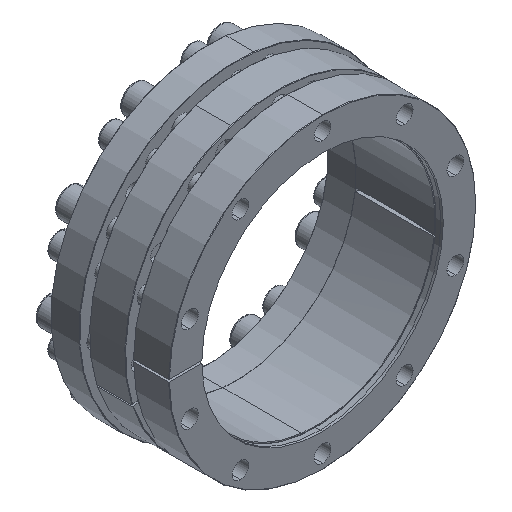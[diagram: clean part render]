
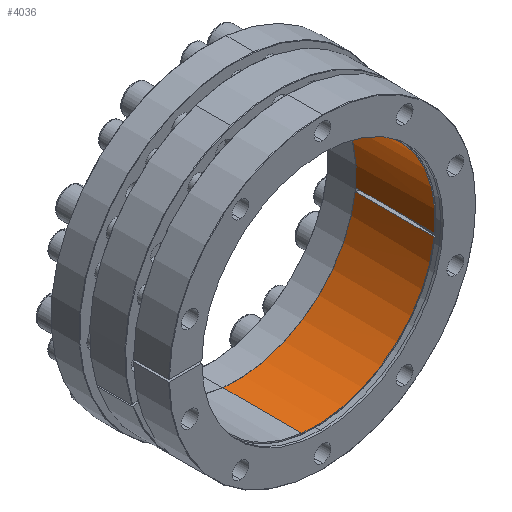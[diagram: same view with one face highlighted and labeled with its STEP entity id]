
A CAD part, isometric view. The second image highlights one B-rep face of the part: STEP entity #4036.
In plain terms, the highlighted cylindrical face has radius 150 mm (diameter 300 mm), a partial arc.
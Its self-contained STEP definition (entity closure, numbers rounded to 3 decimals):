
#149 = DIRECTION ( 'NONE',  ( -0.113, 0., -0.994 ) ) ;
#377 = LINE ( 'NONE', #21816, #11809 ) ;
#606 = VERTEX_POINT ( 'NONE', #13404 ) ;
#609 = CARTESIAN_POINT ( 'NONE',  ( 148.796, 9.005, -18.966 ) ) ;
#793 = VERTEX_POINT ( 'NONE', #11985 ) ;
#1124 = CARTESIAN_POINT ( 'NONE',  ( 16.98, 9.005, 149.036 ) ) ;
#1687 = DIRECTION ( 'NONE',  ( 0., -1., 0. ) ) ;
#2076 = ORIENTED_EDGE ( 'NONE', *, *, #8357, .F. ) ;
#2803 = AXIS2_PLACEMENT_3D ( 'NONE', #20753, #6080, #23225 ) ;
#3242 = DIRECTION ( 'NONE',  ( 0., -1., 0. ) ) ;
#4036 = ADVANCED_FACE ( 'NONE', ( #21828 ), #12202, .F. ) ;
#4134 = VERTEX_POINT ( 'NONE', #24189 ) ;
#4182 = EDGE_CURVE ( 'NONE', #25976, #4134, #377, .T. ) ;
#4791 = CARTESIAN_POINT ( 'NONE',  ( 16.98, 9.005, 149.036 ) ) ;
#5074 = ORIENTED_EDGE ( 'NONE', *, *, #25657, .T. ) ;
#5595 = DIRECTION ( 'NONE',  ( 0., -1., 0. ) ) ;
#5684 = EDGE_CURVE ( 'NONE', #606, #25976, #24711, .T. ) ;
#6056 = VERTEX_POINT ( 'NONE', #26703 ) ;
#6080 = DIRECTION ( 'NONE',  ( 0., -1., 0. ) ) ;
#6133 = CARTESIAN_POINT ( 'NONE',  ( 149.249, 9.005, -14.992 ) ) ;
#6418 = AXIS2_PLACEMENT_3D ( 'NONE', #20254, #5595, #22757 ) ;
#8357 = EDGE_CURVE ( 'NONE', #26540, #6056, #8908, .T. ) ;
#8586 = DIRECTION ( 'NONE',  ( 0., -1., 0. ) ) ;
#8908 = CIRCLE ( 'NONE', #2803, 150. ) ;
#9533 = EDGE_CURVE ( 'NONE', #6056, #28709, #19847, .T. ) ;
#10542 = ORIENTED_EDGE ( 'NONE', *, *, #27479, .T. ) ;
#11174 = DIRECTION ( 'NONE',  ( 0., -1., 0. ) ) ;
#11281 = DIRECTION ( 'NONE',  ( -0.113, 0., -0.994 ) ) ;
#11809 = VECTOR ( 'NONE', #12040, 1000. ) ;
#11985 = CARTESIAN_POINT ( 'NONE',  ( 149.249, 9.005, -14.992 ) ) ;
#12040 = DIRECTION ( 'NONE',  ( 0., 1., 0. ) ) ;
#12202 = CYLINDRICAL_SURFACE ( 'NONE', #25258, 150. ) ;
#12871 = LINE ( 'NONE', #6133, #30946 ) ;
#13334 = VECTOR ( 'NONE', #26885, 1000. ) ;
#13404 = CARTESIAN_POINT ( 'NONE',  ( -16.98, 9.005, -149.036 ) ) ;
#13972 = AXIS2_PLACEMENT_3D ( 'NONE', #17871, #3242, #20374 ) ;
#14731 = EDGE_CURVE ( 'NONE', #4134, #15598, #24357, .T. ) ;
#14735 = DIRECTION ( 'NONE',  ( 0., -1., 0. ) ) ;
#14920 = ORIENTED_EDGE ( 'NONE', *, *, #4182, .T. ) ;
#15118 = EDGE_LOOP ( 'NONE', ( #21354, #2076, #5074, #16286, #14920, #29259, #16142, #10542 ) ) ;
#15598 = VERTEX_POINT ( 'NONE', #17058 ) ;
#16142 = ORIENTED_EDGE ( 'NONE', *, *, #24198, .T. ) ;
#16286 = ORIENTED_EDGE ( 'NONE', *, *, #5684, .T. ) ;
#17058 = CARTESIAN_POINT ( 'NONE',  ( 149.249, 107.505, -14.992 ) ) ;
#17871 = CARTESIAN_POINT ( 'NONE',  ( 0., 107.505, 0. ) ) ;
#18800 = CARTESIAN_POINT ( 'NONE',  ( -16.98, 9.005, -149.036 ) ) ;
#19642 = CIRCLE ( 'NONE', #22284, 150. ) ;
#19847 = LINE ( 'NONE', #4791, #13334 ) ;
#20254 = CARTESIAN_POINT ( 'NONE',  ( 0., 9.005, 0. ) ) ;
#20374 = DIRECTION ( 'NONE',  ( 0.113, 0., 0.994 ) ) ;
#20753 = CARTESIAN_POINT ( 'NONE',  ( 0., 108.005, 0. ) ) ;
#21354 = ORIENTED_EDGE ( 'NONE', *, *, #9533, .F. ) ;
#21816 = CARTESIAN_POINT ( 'NONE',  ( 148.796, 9.005, -18.966 ) ) ;
#21828 = FACE_OUTER_BOUND ( 'NONE', #15118, .T. ) ;
#22284 = AXIS2_PLACEMENT_3D ( 'NONE', #29478, #14735, #149 ) ;
#22757 = DIRECTION ( 'NONE',  ( -0.113, 0., -0.994 ) ) ;
#23079 = LINE ( 'NONE', #18800, #29580 ) ;
#23225 = DIRECTION ( 'NONE',  ( -0.113, 0., -0.994 ) ) ;
#24189 = CARTESIAN_POINT ( 'NONE',  ( 148.796, 107.505, -18.966 ) ) ;
#24198 = EDGE_CURVE ( 'NONE', #15598, #793, #12871, .T. ) ;
#24357 = CIRCLE ( 'NONE', #13972, 150. ) ;
#24711 = CIRCLE ( 'NONE', #6418, 150. ) ;
#25258 = AXIS2_PLACEMENT_3D ( 'NONE', #26037, #11174, #11281 ) ;
#25657 = EDGE_CURVE ( 'NONE', #26540, #606, #23079, .T. ) ;
#25976 = VERTEX_POINT ( 'NONE', #609 ) ;
#26037 = CARTESIAN_POINT ( 'NONE',  ( 0., 9.005, 0. ) ) ;
#26540 = VERTEX_POINT ( 'NONE', #27210 ) ;
#26703 = CARTESIAN_POINT ( 'NONE',  ( 16.98, 108.005, 149.036 ) ) ;
#26885 = DIRECTION ( 'NONE',  ( 0., -1., 0. ) ) ;
#27210 = CARTESIAN_POINT ( 'NONE',  ( -16.98, 108.005, -149.036 ) ) ;
#27479 = EDGE_CURVE ( 'NONE', #793, #28709, #19642, .T. ) ;
#28709 = VERTEX_POINT ( 'NONE', #1124 ) ;
#29259 = ORIENTED_EDGE ( 'NONE', *, *, #14731, .T. ) ;
#29478 = CARTESIAN_POINT ( 'NONE',  ( 0., 9.005, 0. ) ) ;
#29580 = VECTOR ( 'NONE', #1687, 1000. ) ;
#30946 = VECTOR ( 'NONE', #8586, 1000. ) ;
